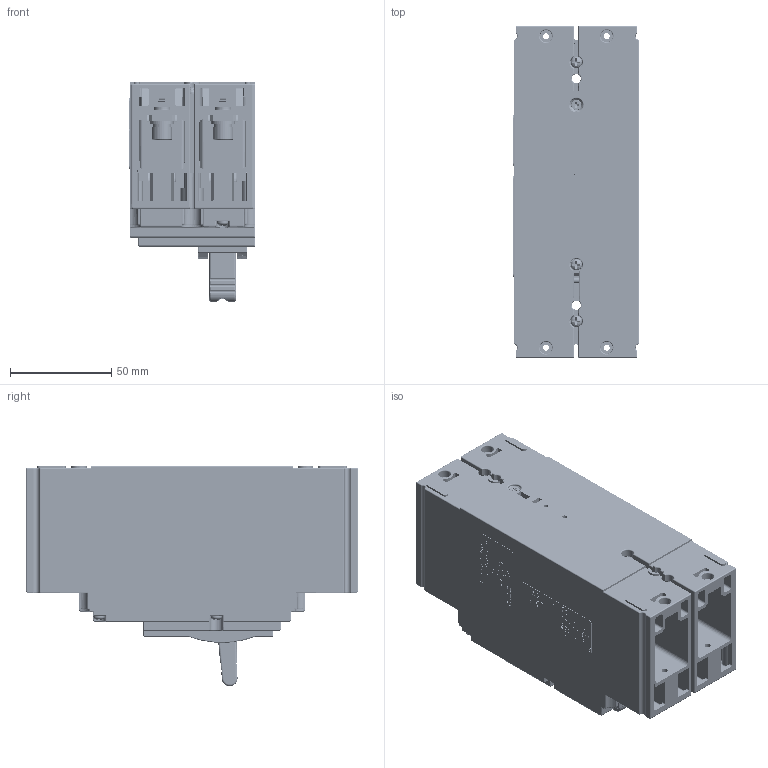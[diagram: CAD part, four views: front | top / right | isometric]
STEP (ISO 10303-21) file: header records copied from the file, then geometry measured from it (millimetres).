
FILE_DESCRIPTION((''),'2;1');
FILE_NAME('M1_2PBUSBAR00_ASM_ASM','2022-04-28T22:20:24',('5627'),(''),'CREO PARAMETRIC BY PTC INC, 2018020','CREO PARAMETRIC BY PTC INC, 2018020','');
FILE_SCHEMA(('CONFIG_CONTROL_DESIGN'));
Products named in the file (117): 2P-8024M0101135-01_1_1; 5263M1526101_ASM_2_1; 5043M1526119_ASM_2_ASM_1_ASM; 5203M1526142_AF0_ASM_4_1; 5203M1526142_AF1_ASM_4_1; 2P-5106M1526157_ASM_2_ASM_1_ASM; 8043M03061561_2_1; 8206M0312187_2_1; 8206M0810107_2_1; 8043M03061562_2_1; 8257M0308105_2_1; 8206M0826004_2_1; 5257M1526112_ASM_2_ASM_1_ASM; 8233M0308115_2_1; 8206M0314017_2_1; 8206M0810106_2_1; 8206M0312186_2_1; 5257M1526113_ASM_2_ASM_1_ASM; 8885M0308105_2_1; 8288M0820177_2_1; 5295M1526149_ASM_3_ASM_1_ASM; 8885M0101001_2_1; 8206M0810005_2_1; 8206M0326001_2_1; 8206M0410001_2_1; 8233M0308109_2_1; 8233M0308110_2_1; 8232M0304106_2_1; 8206M0810002_2_1; GBT896-2_5_2_1; 5232M1526110_ASM_2_ASM_1_ASM; 8206M0810001_2_1; 8253M0101001_2_1; 8210M0101001_2_1; 8860M1424001_2_1; 8860M1424002_2_1; GBT13806_2-ST2_9X10-A_2_1; 5253M1526001_ASM_2_ASM_1_ASM; GBT13806_2-ST2_9X16-A_2_1; 8288M08200011-2_2_1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
Assembly tree (148 placements, depth 10):
  M1_2PBUSBAR00_ASM_ASM
    M1_2PBUSBAR00_ASM_1_ASM
      2P-2M329_ASM_2_ASM_1_ASM
        2P-8024M0101135-01_1_1
        2P-5519M1526310_ASM_2_ASM_1_ASM
          2P-5295M1526158_ASM_2_ASM_1_ASM
            2P-5106M1526157_ASM_2_ASM_1_ASM
              5043M1526119_ASM_2_ASM_1_ASM
                5263M1526101_ASM_2_1
              5203M1526142_AF0_ASM_4_1
              5203M1526142_AF1_ASM_4_1
            5295M1526152_ASM_3_ASM_1_ASM
              5295M1526149_ASM_3_ASM_1_ASM
                8043M03061561_2_1
                8206M0312187_2_1
                8206M0810107_2_1
                8043M03061562_2_1
                5257M1526113_ASM_2_ASM_1_ASM
                  5257M1526112_ASM_2_ASM_1_ASM
                  8233M0308115_2_1  x2
                  8206M0314017_2_1
                  8206M0810106_2_1
                  8206M0312186_2_1
                8885M0308105_2_1
                8288M0820177_2_1
              8885M0101001_2_1
              8206M0810005_2_1
              8206M0326001_2_1
              8206M0410001_2_1  x2
              8233M0308109_2_1
              8233M0308110_2_1
              5232M1526111_ASM_2_ASM_1_ASM
                5232M1526110_ASM_2_ASM_1_ASM
                  8232M0304106_2_1
                  8206M0810002_2_1
                  GBT896-2_5_2_1
                8206M0810001_2_1
                5253M1526001_ASM_2_ASM_1_ASM
                  8253M0101001_2_1
                  8210M0101001_2_1
                  8860M1424001_2_1
                  8860M1424002_2_1
                  GBT13806_2-ST2_9X10-A_2_1
                GBT13806_2-ST2_9X16-A_2_1
                8288M08200011-2_2_1  x2
            2P-5206M1501108_AF0_ASM_1_ASM_1_ASM
              2P-8206M0310127_1_1
              001_1_1
          5005M15261801-2_ASM_4_ASM_1_ASM  x2
            8005M0203118_2_1
            8742M0306001_2_1
            8005M0203117_2_1
            GBT875-3X21_2_1
            GBT848-3_2_1
            5550M1526171_ASM_2_ASM_1_ASM
              PRT0004_2_1
              8550M0519002_2_1
          2P-5005M1526194_ASM_2_1
          5005M15261811-2_ASM_2_1
          2P-5206M1501107_ASM_1_ASM_1_ASM
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Bounding box: 62.3 x 164 x 108.89 mm (x, y, z)
Volume: 287054.4 mm3; surface area: 291709.3 mm2
Topology: 141 solids, 173 shells, 21439 faces, 60505 edges, 40034 vertices
Faces by surface type: plane 17969, cylinder 2624, torus 286, cone 257, sphere 195, bspline 108
Entity records: 653116 total; most frequent: CARTESIAN_POINT 132605, ORIENTED_EDGE 111762, DIRECTION 100983, EDGE_CURVE 55924, VECTOR 49481, LINE 49481, VERTEX_POINT 37176, AXIS2_PLACEMENT_3D 25751
